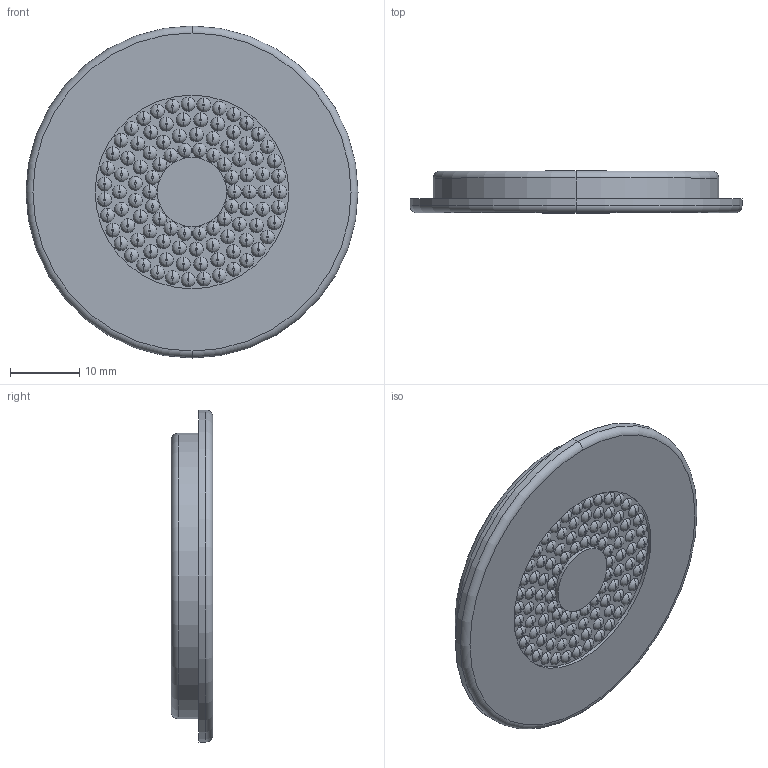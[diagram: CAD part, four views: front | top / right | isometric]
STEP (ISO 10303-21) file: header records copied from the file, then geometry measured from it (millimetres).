
FILE_DESCRIPTION (( 'STEP AP214' ), '1' );
FILE_NAME ('GOMAAV050.STEP', '2024-01-24T15:48:07', ( '' ), ( '' ), 'SwSTEP 2.0', 'SolidWorks 2022', '' );
FILE_SCHEMA (( 'AUTOMOTIVE_DESIGN' ));
Length unit declared in the file: millimetre
Products named in the file (1): GOMAAV050
Bounding box: 48 x 6 x 48 mm (x, y, z)
Volume: 8009.8 mm3; surface area: 4632.5 mm2
Topology: 1 solids, 1 shells, 324 faces, 646 edges, 428 vertices
Faces by surface type: torus 208, plane 106, cylinder 10
Entity records: 8856 total; most frequent: DIRECTION 1932, CARTESIAN_POINT 1399, ORIENTED_EDGE 1292, AXIS2_PLACEMENT_3D 961, EDGE_CURVE 646, CIRCLE 636, VERTEX_POINT 428, EDGE_LOOP 428
